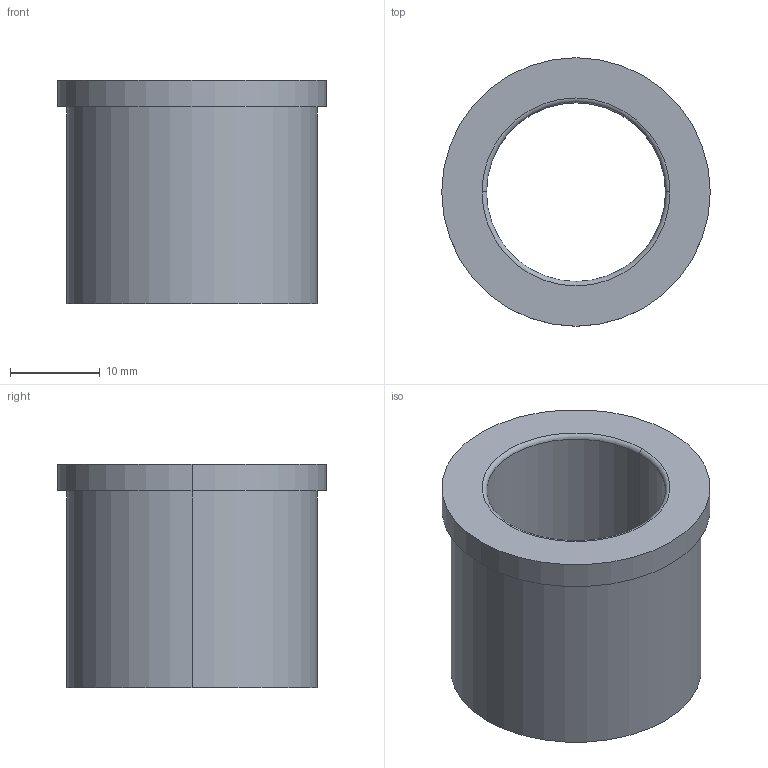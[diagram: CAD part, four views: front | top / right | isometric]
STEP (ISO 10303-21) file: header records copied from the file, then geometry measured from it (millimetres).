
FILE_DESCRIPTION(/* description */ (''),/* implementation_level */ '2;1');
FILE_NAME(/* name */ '3d_sghz20-25_00313_r00.stp',/* time_stamp */ '2011-01-10T14:11:11+09:00',/* author */ ('MISUMI'),/* organization */ (''),/* preprocessor_version */ 'ST-DEVELOPER v11',/* originating_system */ 'UGS - NX 5.0',/* authorisation */ '');
FILE_SCHEMA (('CONFIG_CONTROL_DESIGN'));
Length unit declared in the file: millimetre
Products named in the file (1): 3d_sghz20-25_00313_r00
Bounding box: 30 x 30 x 25 mm (x, y, z)
Volume: 7806.3 mm3; surface area: 4547.4 mm2
Topology: 1 solids, 1 shells, 13 faces, 26 edges, 16 vertices
Faces by surface type: cylinder 6, torus 4, plane 3
Entity records: 438 total; most frequent: DIRECTION 74, CARTESIAN_POINT 56, ORIENTED_EDGE 52, AXIS2_PLACEMENT_3D 34, EDGE_CURVE 26, CIRCLE 20, EDGE_LOOP 16, VERTEX_POINT 16
